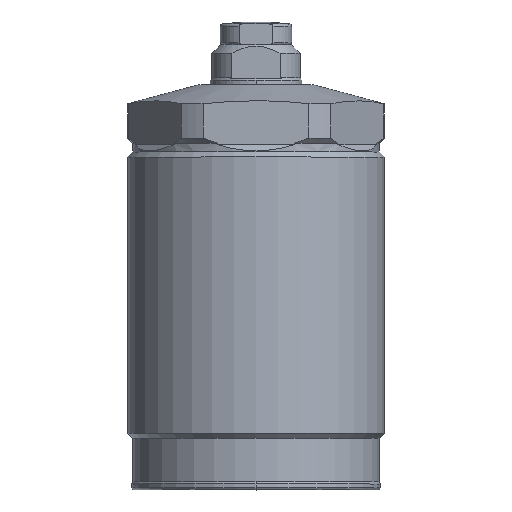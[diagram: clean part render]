
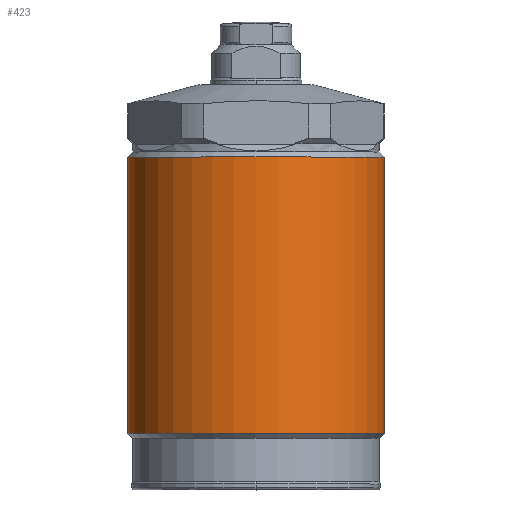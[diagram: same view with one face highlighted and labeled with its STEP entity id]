
A CAD part, top view. The second image highlights one B-rep face of the part: STEP entity #423.
In plain terms, the highlighted cylindrical face has radius 22.5 mm (diameter 45 mm), a partial arc.
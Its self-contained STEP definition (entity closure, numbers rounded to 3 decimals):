
#423=ADVANCED_FACE('',(#602),#502,.T.);
#502=CYLINDRICAL_SURFACE('',#2582,22.5);
#602=FACE_OUTER_BOUND('',#744,.T.);
#744=EDGE_LOOP('',(#1386,#1387,#1388,#1389));
#859=LINE('',#4055,#954);
#860=LINE('',#4056,#955);
#954=VECTOR('',#3209,1.);
#955=VECTOR('',#3210,1.);
#1386=ORIENTED_EDGE('',*,*,#2051,.T.);
#1387=ORIENTED_EDGE('',*,*,#2052,.T.);
#1388=ORIENTED_EDGE('',*,*,#2049,.F.);
#1389=ORIENTED_EDGE('',*,*,#2053,.F.);
#1774=VERTEX_POINT('',#4047);
#1775=VERTEX_POINT('',#4049);
#1776=VERTEX_POINT('',#4053);
#1777=VERTEX_POINT('',#4054);
#2049=EDGE_CURVE('',#1774,#1775,#2301,.T.);
#2051=EDGE_CURVE('',#1776,#1777,#2302,.T.);
#2052=EDGE_CURVE('',#1777,#1775,#859,.T.);
#2053=EDGE_CURVE('',#1776,#1774,#860,.T.);
#2301=CIRCLE('',#2579,22.5);
#2302=CIRCLE('',#2581,22.5);
#2579=AXIS2_PLACEMENT_3D('',#4048,#3202,#3203);
#2581=AXIS2_PLACEMENT_3D('',#4052,#3207,#3208);
#2582=AXIS2_PLACEMENT_3D('',#4057,#3211,#3212);
#3202=DIRECTION('',(0.,-1.,0.));
#3203=DIRECTION('',(1.,0.,0.));
#3207=DIRECTION('',(0.,-1.,0.));
#3208=DIRECTION('',(1.,0.,0.));
#3209=DIRECTION('',(0.,-1.,0.));
#3210=DIRECTION('',(0.,-1.,0.));
#3211=DIRECTION('',(0.,-1.,0.));
#3212=DIRECTION('',(1.,0.,0.));
#4047=CARTESIAN_POINT('',(22.5,-61.1,0.));
#4048=CARTESIAN_POINT('',(0.,-61.1,0.));
#4049=CARTESIAN_POINT('',(-22.5,-61.1,0.));
#4052=CARTESIAN_POINT('',(0.,-12.7,0.));
#4053=CARTESIAN_POINT('',(22.5,-12.7,0.));
#4054=CARTESIAN_POINT('',(-22.5,-12.7,0.));
#4055=CARTESIAN_POINT('',(-22.5,1.,0.));
#4056=CARTESIAN_POINT('',(22.5,1.,0.));
#4057=CARTESIAN_POINT('',(0.,1.,0.));
